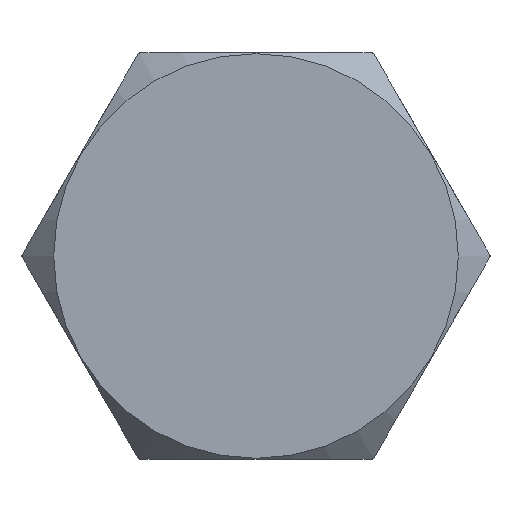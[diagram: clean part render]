
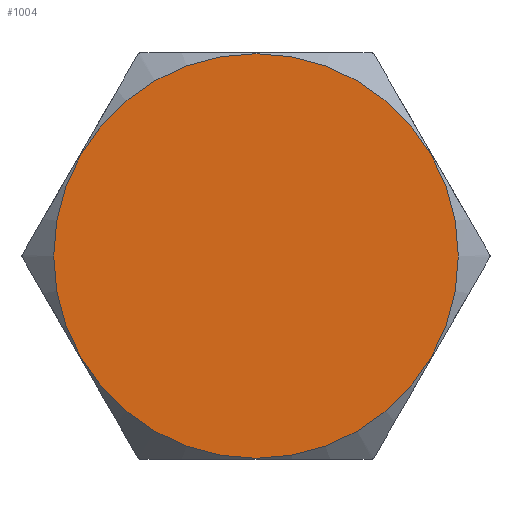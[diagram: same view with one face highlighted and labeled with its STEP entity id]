
A CAD part, front view. The second image highlights one B-rep face of the part: STEP entity #1004.
In plain terms, the highlighted planar face has unit normal (0, -1, 0).
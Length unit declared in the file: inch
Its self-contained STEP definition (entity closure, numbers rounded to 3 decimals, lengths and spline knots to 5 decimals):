
#57=PLANE('',#1147);
#212=FACE_OUTER_BOUND('',#274,.T.);
#274=EDGE_LOOP('',(#848));
#349=CIRCLE('',#1144,0.498);
#466=VERTEX_POINT('',#1849);
#600=EDGE_CURVE('',#466,#466,#349,.T.);
#848=ORIENTED_EDGE('',*,*,#600,.F.);
#1004=ADVANCED_FACE('',(#212),#57,.T.);
#1144=AXIS2_PLACEMENT_3D('',#1850,#1402,#1403);
#1147=AXIS2_PLACEMENT_3D('',#1854,#1409,#1410);
#1402=DIRECTION('center_axis',(0.,1.,0.));
#1403=DIRECTION('ref_axis',(0.,0.,1.));
#1409=DIRECTION('center_axis',(0.,-1.,0.));
#1410=DIRECTION('ref_axis',(0.,0.,-1.));
#1849=CARTESIAN_POINT('',(0.,0.,-0.498));
#1850=CARTESIAN_POINT('Origin',(0.,0.,0.));
#1854=CARTESIAN_POINT('Origin',(0.,0.,0.));
